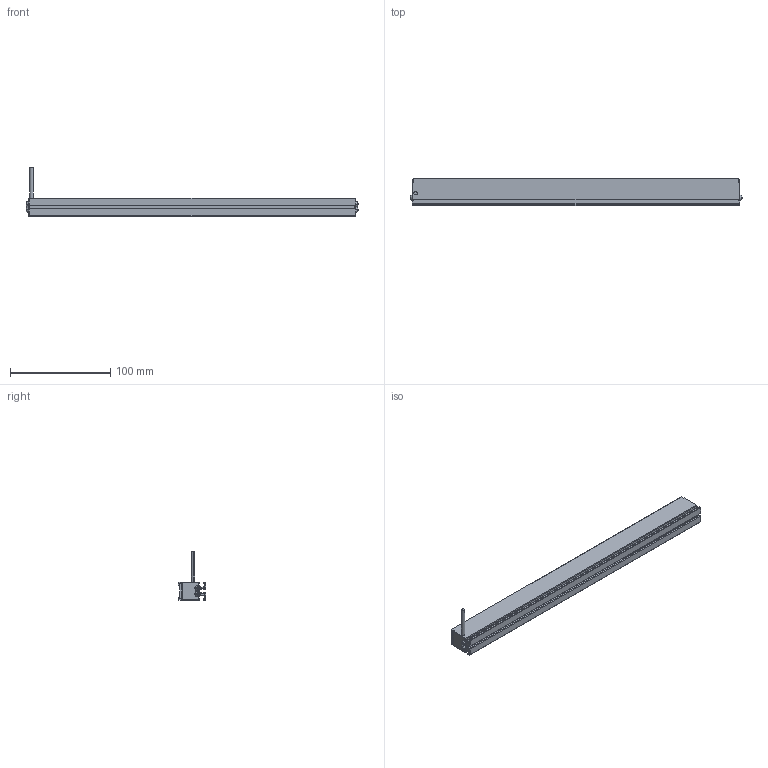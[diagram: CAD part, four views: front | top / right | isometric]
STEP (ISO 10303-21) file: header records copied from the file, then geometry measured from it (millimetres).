
FILE_DESCRIPTION((''),'2;1');
FILE_NAME('MV-LLDS-327-18_ASM','2020-12-30T',('Administrator'),(''),'PRO/ENGINEER BY PARAMETRIC TECHNOLOGY CORPORATION, 2010100','PRO/ENGINEER BY PARAMETRIC TECHNOLOGY CORPORATION, 2010100','');
FILE_SCHEMA(('CONFIG_CONTROL_DESIGN'));
Length unit declared in the file: millimetre
Products named in the file (3): BL_2_-_2_; M3-5_3; MV-LLDS-327-18_ASM
Assembly tree (5 placements, depth 2):
  MV-LLDS-327-18_ASM
    BL_2_-_2_
    M3-5_3  x4
Bounding box: 331.68 x 27 x 48 mm (x, y, z)
Volume: 130178.6 mm3; surface area: 58786.4 mm2
Topology: 5 solids, 13 shells, 327 faces, 872 edges, 560 vertices
Faces by surface type: plane 213, cylinder 66, cone 16, bspline 16, torus 8, sphere 8
Entity records: 7493 total; most frequent: CARTESIAN_POINT 1575, ORIENTED_EDGE 1214, DIRECTION 1184, EDGE_CURVE 617, VECTOR 472, LINE 472, VERTEX_POINT 401, AXIS2_PLACEMENT_3D 356
